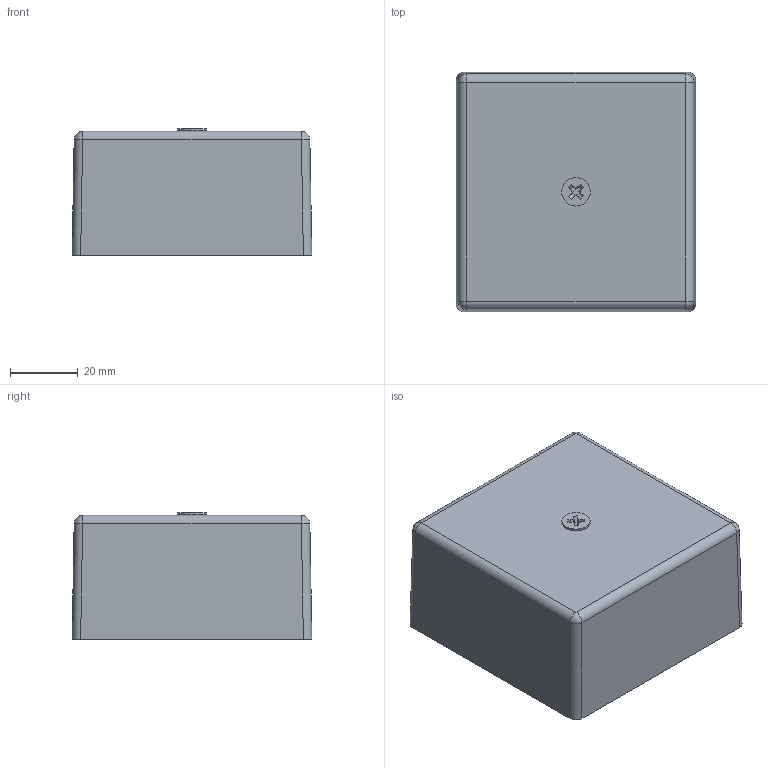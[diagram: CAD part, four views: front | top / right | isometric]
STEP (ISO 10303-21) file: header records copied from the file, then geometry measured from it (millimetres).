
FILE_DESCRIPTION(('STEP AP203'), '1');
FILE_NAME('ﾊﾌ-ﾎ-IIP41', '', ('UNSPECIFIED'), ('UNSPECIFIED'), 'ASCON STEP Converter 1.6', 'ASCON Math Kernel', '');
FILE_SCHEMA(('CONFIG_CONTROL_DESIGN'));
Length unit declared in the file: millimetre
Bounding box: 70.64 x 70.64 x 37.25 mm (x, y, z)
Volume: 31332.5 mm3; surface area: 61299.6 mm2
Topology: 2 solids, 2 shells, 642 faces, 1788 edges, 1153 vertices
Faces by surface type: plane 417, cylinder 176, cone 20, sphere 20, torus 9
Full cylindrical faces by diameter (mm): 1.2 x4, 2.5 x14, 2.7 x1, 3 x4, 3.2 x2, 3.4 x1, 3.5 x4, 4 x8, 4.7 x1, 5 x3, 5.6 x1, 5.7 x1, 6 x2, 7 x2, 7.5 x1, 8 x1, 8.4 x1, 16 x1
Entity records: 28820 total; most frequent: CARTESIAN_POINT 7307, ORIENTED_EDGE 3398, DIRECTION 3302, EDGE_CURVE 1699, VERTEX_POINT 1153, LINE 1134, VECTOR 1134, AXIS2_PLACEMENT_3D 1084
